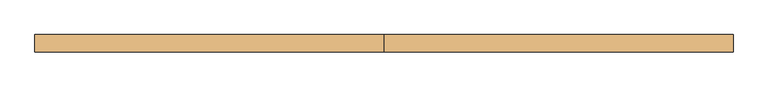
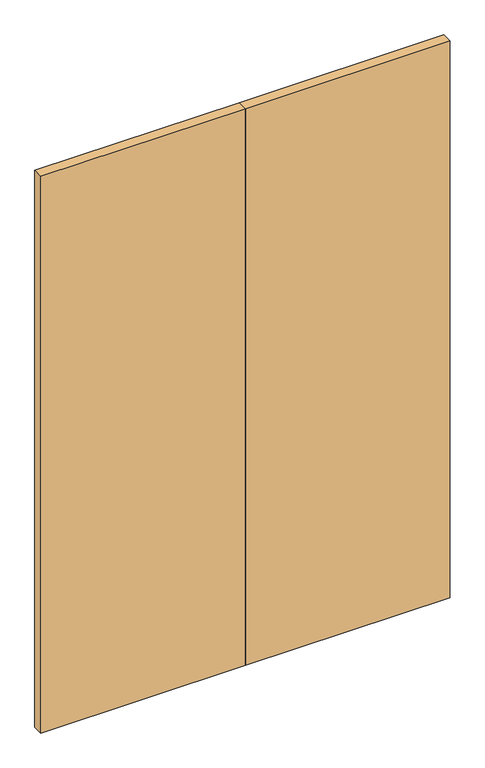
"""IFC4 building model written with IfcOpenShell, lengths in millimetres: door geometry, 営_両開き扉 : SD3a 1600*2300."""

from ifc_helpers import new_model, si_unit, origin, origin_with_axes, place, context, project, spatial, polyline, outline, extrude, source, transform, mapped, element, save


def door_dd0264bc(model_context):
    return source(origin(), model_context, "Body", "SweptSolid", [
        extrude(outline(polyline([(0.0, 30.0), (0.0, 70.0), (800.0, 70.0), (800.0, 30.0), (0.0, 30.0)])), origin_with_axes(), (0.0, 0.0, 1.0), 2300.0),
        extrude(outline(polyline([(0.0, 30.0), (-800.0, 30.0), (-800.0, 70.0), (0.0, 70.0), (0.0, 30.0)])), origin_with_axes(), (0.0, 0.0, 1.0), 2300.0),
    ])


if __name__ == "__main__":
    model = new_model("IFC4")
    model_context = context("Model", 3, world=origin())
    ifc_project = project(units=[si_unit("LENGTHUNIT", "METRE", prefix="MILLI")], contexts=[model_context])
    site = spatial("IfcSite", under=ifc_project)
    building = spatial("IfcBuilding", under=site)
    placement = place(None, origin())
    door_shape = door_dd0264bc(model_context)
    element("IfcDoor", 1, ObjectType="営_両開き扉 : SD3a 1600*2300", at=placement, inside=building, context=model_context, shape_type="MappedRepresentation", body=[
        mapped(door_shape, transform((0.0, 0.0, 0.0), x_axis=(1.0, 0.0, 0.0), y_axis=(0.0, 1.0, 0.0), z_axis=(0.0, 0.0, 1.0))),
    ])
    save(model, "model.ifc")
